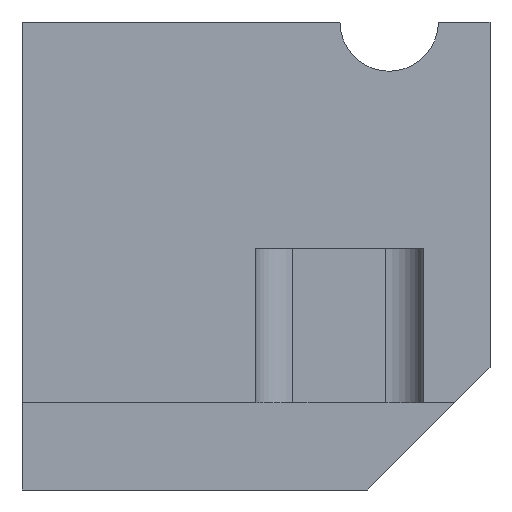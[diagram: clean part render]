
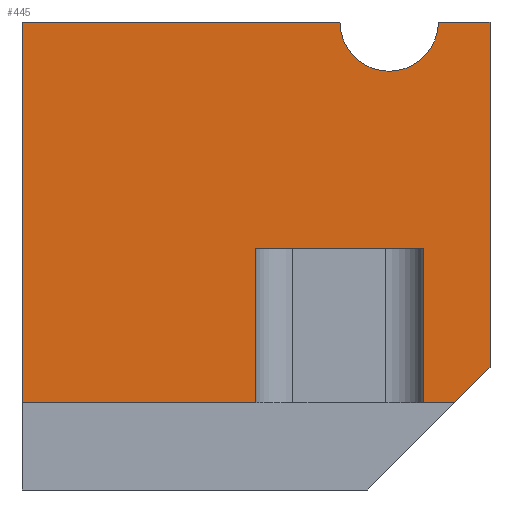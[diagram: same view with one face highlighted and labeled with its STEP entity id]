
A CAD part, front view. The second image highlights one B-rep face of the part: STEP entity #445.
In plain terms, the highlighted planar face has unit normal (0, -1, 0).
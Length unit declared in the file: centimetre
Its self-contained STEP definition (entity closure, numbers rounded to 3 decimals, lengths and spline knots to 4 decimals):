
#2 = CARTESIAN_POINT ( 'NONE',  ( 1000., 0., 1000. ) ) ;
#12 = EDGE_CURVE ( 'NONE', #545, #436, #291, .T. ) ;
#20 = LINE ( 'NONE', #340, #167 ) ;
#22 = AXIS2_PLACEMENT_3D ( 'NONE', #321, #419, #624 ) ;
#29 = ORIENTED_EDGE ( 'NONE', *, *, #605, .T. ) ;
#31 = DIRECTION ( 'NONE',  ( 1., 0., 0. ) ) ;
#35 = VECTOR ( 'NONE', #31, 100. ) ;
#37 = ORIENTED_EDGE ( 'NONE', *, *, #406, .F. ) ;
#38 = VECTOR ( 'NONE', #402, 100. ) ;
#46 = VERTEX_POINT ( 'NONE', #346 ) ;
#50 = ORIENTED_EDGE ( 'NONE', *, *, #698, .F. ) ;
#60 = CARTESIAN_POINT ( 'NONE',  ( 857.737, 0., 516.8242 ) ) ;
#78 = EDGE_CURVE ( 'NONE', #640, #163, #20, .T. ) ;
#79 = LINE ( 'NONE', #266, #400 ) ;
#81 = DIRECTION ( 'NONE',  ( 1., 0., 0. ) ) ;
#83 = DIRECTION ( 'NONE',  ( 0., 0., -1. ) ) ;
#91 = CARTESIAN_POINT ( 'NONE',  ( 784.5523, 0., 1000. ) ) ;
#97 = DIRECTION ( 'NONE',  ( 1., 0., 0. ) ) ;
#110 = EDGE_CURVE ( 'NONE', #265, #436, #287, .T. ) ;
#119 = CARTESIAN_POINT ( 'NONE',  ( 1000., 0., 1000. ) ) ;
#125 = ORIENTED_EDGE ( 'NONE', *, *, #78, .T. ) ;
#135 = VERTEX_POINT ( 'NONE', #484 ) ;
#142 = CARTESIAN_POINT ( 'NONE',  ( 0., 0., 1000. ) ) ;
#143 = CARTESIAN_POINT ( 'NONE',  ( 0., 0., 186.757 ) ) ;
#163 = VERTEX_POINT ( 'NONE', #378 ) ;
#165 = VECTOR ( 'NONE', #345, 100. ) ;
#167 = VECTOR ( 'NONE', #567, 100. ) ;
#170 = DIRECTION ( 'NONE',  ( 0., 0., -1. ) ) ;
#178 = CARTESIAN_POINT ( 'NONE',  ( 784.5523, 0., 1000. ) ) ;
#198 = EDGE_CURVE ( 'NONE', #491, #640, #526, .T. ) ;
#200 = CIRCLE ( 'NONE', #676, 105.1963 ) ;
#202 = DIRECTION ( 'NONE',  ( 1., 0., 0. ) ) ;
#205 = EDGE_CURVE ( 'NONE', #221, #265, #434, .T. ) ;
#218 = ORIENTED_EDGE ( 'NONE', *, *, #205, .T. ) ;
#221 = VERTEX_POINT ( 'NONE', #643 ) ;
#230 = VERTEX_POINT ( 'NONE', #683 ) ;
#232 = VECTOR ( 'NONE', #702, 100. ) ;
#246 = CARTESIAN_POINT ( 'NONE',  ( 0., 0., 186.757 ) ) ;
#248 = ORIENTED_EDGE ( 'NONE', *, *, #433, .T. ) ;
#249 = LINE ( 'NONE', #468, #35 ) ;
#251 = EDGE_CURVE ( 'NONE', #352, #221, #302, .T. ) ;
#265 = VERTEX_POINT ( 'NONE', #295 ) ;
#266 = CARTESIAN_POINT ( 'NONE',  ( 0., 0., 1000. ) ) ;
#268 = CARTESIAN_POINT ( 'NONE',  ( 0., 0., 186.757 ) ) ;
#271 = CARTESIAN_POINT ( 'NONE',  ( 679.356, 0., 1000. ) ) ;
#273 = VECTOR ( 'NONE', #202, 100. ) ;
#287 = LINE ( 'NONE', #303, #38 ) ;
#288 = DIRECTION ( 'NONE',  ( 0., -1., 0. ) ) ;
#291 = LINE ( 'NONE', #119, #689 ) ;
#295 = CARTESIAN_POINT ( 'NONE',  ( 925.1782, 0., 186.757 ) ) ;
#300 = DIRECTION ( 'NONE',  ( 0., 0., -1. ) ) ;
#302 = LINE ( 'NONE', #680, #165 ) ;
#303 = CARTESIAN_POINT ( 'NONE',  ( 1000., 0., 261.5788 ) ) ;
#312 = DIRECTION ( 'NONE',  ( 0., 0., -1. ) ) ;
#314 = ORIENTED_EDGE ( 'NONE', *, *, #198, .T. ) ;
#321 = CARTESIAN_POINT ( 'NONE',  ( 0., 0., 1000. ) ) ;
#335 = ORIENTED_EDGE ( 'NONE', *, *, #251, .T. ) ;
#338 = AXIS2_PLACEMENT_3D ( 'NONE', #91, #682, #83 ) ;
#340 = CARTESIAN_POINT ( 'NONE',  ( 498.3315, 0., 516.8242 ) ) ;
#345 = DIRECTION ( 'NONE',  ( 0., 0., -1. ) ) ;
#346 = CARTESIAN_POINT ( 'NONE',  ( 889.7486, 0., 1000. ) ) ;
#352 = VERTEX_POINT ( 'NONE', #60 ) ;
#365 = CIRCLE ( 'NONE', #338, 105.1963 ) ;
#371 = PLANE ( 'NONE',  #22 ) ;
#378 = CARTESIAN_POINT ( 'NONE',  ( 498.3315, 0., 516.8242 ) ) ;
#382 = EDGE_CURVE ( 'NONE', #46, #545, #249, .T. ) ;
#393 = CARTESIAN_POINT ( 'NONE',  ( 0., 0., 516.8242 ) ) ;
#400 = VECTOR ( 'NONE', #97, 100. ) ;
#402 = DIRECTION ( 'NONE',  ( 0.707, 0., 0.707 ) ) ;
#406 = EDGE_CURVE ( 'NONE', #523, #230, #365, .T. ) ;
#419 = DIRECTION ( 'NONE',  ( 0., 1., 0. ) ) ;
#428 = FACE_OUTER_BOUND ( 'NONE', #553, .T. ) ;
#433 = EDGE_CURVE ( 'NONE', #135, #491, #632, .T. ) ;
#434 = LINE ( 'NONE', #143, #703 ) ;
#436 = VERTEX_POINT ( 'NONE', #636 ) ;
#437 = CARTESIAN_POINT ( 'NONE',  ( 498.3315, 0., 186.757 ) ) ;
#442 = ORIENTED_EDGE ( 'NONE', *, *, #514, .F. ) ;
#445 = ADVANCED_FACE ( 'NONE', ( #428 ), #371, .F. ) ;
#468 = CARTESIAN_POINT ( 'NONE',  ( 0., 0., 1000. ) ) ;
#484 = CARTESIAN_POINT ( 'NONE',  ( 0., 0., 1000. ) ) ;
#488 = LINE ( 'NONE', #393, #232 ) ;
#491 = VERTEX_POINT ( 'NONE', #246 ) ;
#500 = VECTOR ( 'NONE', #312, 100. ) ;
#514 = EDGE_CURVE ( 'NONE', #135, #523, #79, .T. ) ;
#523 = VERTEX_POINT ( 'NONE', #271 ) ;
#526 = LINE ( 'NONE', #268, #273 ) ;
#544 = ORIENTED_EDGE ( 'NONE', *, *, #12, .F. ) ;
#545 = VERTEX_POINT ( 'NONE', #2 ) ;
#553 = EDGE_LOOP ( 'NONE', ( #627, #50, #37, #442, #248, #314, #125, #29, #335, #218, #606, #544 ) ) ;
#567 = DIRECTION ( 'NONE',  ( 0., 0., 1. ) ) ;
#605 = EDGE_CURVE ( 'NONE', #163, #352, #488, .T. ) ;
#606 = ORIENTED_EDGE ( 'NONE', *, *, #110, .T. ) ;
#624 = DIRECTION ( 'NONE',  ( 0., 0., 1. ) ) ;
#627 = ORIENTED_EDGE ( 'NONE', *, *, #382, .F. ) ;
#632 = LINE ( 'NONE', #142, #500 ) ;
#636 = CARTESIAN_POINT ( 'NONE',  ( 1000., 0., 261.5788 ) ) ;
#640 = VERTEX_POINT ( 'NONE', #437 ) ;
#643 = CARTESIAN_POINT ( 'NONE',  ( 857.737, 0., 186.757 ) ) ;
#676 = AXIS2_PLACEMENT_3D ( 'NONE', #178, #288, #170 ) ;
#680 = CARTESIAN_POINT ( 'NONE',  ( 857.737, 0., 516.8242 ) ) ;
#682 = DIRECTION ( 'NONE',  ( 0., -1., 0. ) ) ;
#683 = CARTESIAN_POINT ( 'NONE',  ( 784.5523, 0., 894.8037 ) ) ;
#689 = VECTOR ( 'NONE', #300, 100. ) ;
#698 = EDGE_CURVE ( 'NONE', #230, #46, #200, .T. ) ;
#702 = DIRECTION ( 'NONE',  ( 1., 0., 0. ) ) ;
#703 = VECTOR ( 'NONE', #81, 100. ) ;
